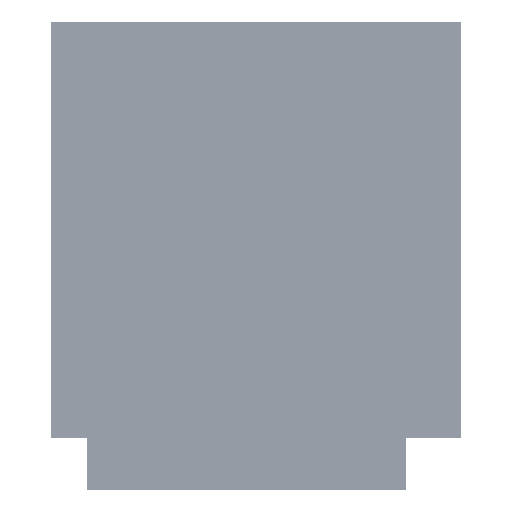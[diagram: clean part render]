
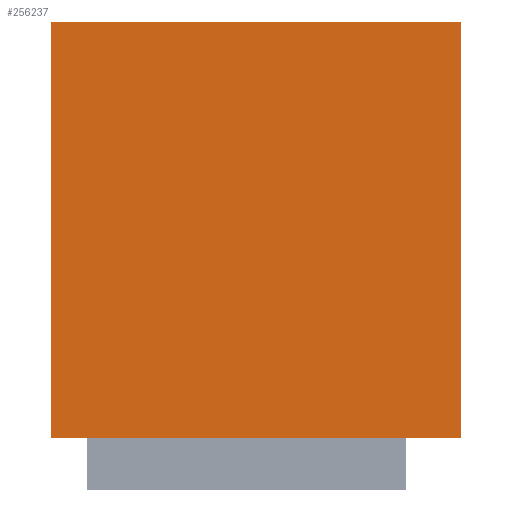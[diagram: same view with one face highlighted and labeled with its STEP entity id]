
A CAD part, front view. The second image highlights one B-rep face of the part: STEP entity #256237.
In plain terms, the highlighted planar face has unit normal (0, -1, 0).
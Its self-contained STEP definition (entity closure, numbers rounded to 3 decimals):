
#8048 = LINE ( 'NONE', #250929, #80453 ) ;
#15464 = ORIENTED_EDGE ( 'NONE', *, *, #131009, .T. ) ;
#17858 = CARTESIAN_POINT ( 'NONE',  ( 0., -43.04, 0. ) ) ;
#18842 = VERTEX_POINT ( 'NONE', #203415 ) ;
#62784 = CARTESIAN_POINT ( 'NONE',  ( -200.025, -43.04, 0. ) ) ;
#63605 = CARTESIAN_POINT ( 'NONE',  ( 0., -43.04, 0. ) ) ;
#67324 = CARTESIAN_POINT ( 'NONE',  ( 0., -43.04, 0. ) ) ;
#67401 = EDGE_CURVE ( 'NONE', #162328, #18842, #8048, .T. ) ;
#72701 = VERTEX_POINT ( 'NONE', #157659 ) ;
#80453 = VECTOR ( 'NONE', #200835, 1000. ) ;
#86128 = DIRECTION ( 'NONE',  ( -1., 0., 0. ) ) ;
#112965 = LINE ( 'NONE', #62784, #168851 ) ;
#119173 = VERTEX_POINT ( 'NONE', #144408 ) ;
#131009 = EDGE_CURVE ( 'NONE', #119173, #72701, #112965, .T. ) ;
#144408 = CARTESIAN_POINT ( 'NONE',  ( -200.025, -43.04, 203.2 ) ) ;
#157659 = CARTESIAN_POINT ( 'NONE',  ( -200.025, -43.04, 0. ) ) ;
#162328 = VERTEX_POINT ( 'NONE', #67324 ) ;
#162410 = DIRECTION ( 'NONE',  ( 1., 0., 0. ) ) ;
#168851 = VECTOR ( 'NONE', #257158, 1000. ) ;
#178524 = EDGE_LOOP ( 'NONE', ( #226207, #190630, #15464, #214930 ) ) ;
#190630 = ORIENTED_EDGE ( 'NONE', *, *, #259580, .T. ) ;
#200835 = DIRECTION ( 'NONE',  ( 0., 0., 1. ) ) ;
#203415 = CARTESIAN_POINT ( 'NONE',  ( 0., -43.04, 203.2 ) ) ;
#214930 = ORIENTED_EDGE ( 'NONE', *, *, #215583, .T. ) ;
#215583 = EDGE_CURVE ( 'NONE', #72701, #162328, #232568, .T. ) ;
#216760 = VECTOR ( 'NONE', #234094, 1000. ) ;
#226207 = ORIENTED_EDGE ( 'NONE', *, *, #67401, .T. ) ;
#228794 = CARTESIAN_POINT ( 'NONE',  ( 0., -43.04, 203.2 ) ) ;
#232568 = LINE ( 'NONE', #17858, #216760 ) ;
#234094 = DIRECTION ( 'NONE',  ( 1., 0., 0. ) ) ;
#250929 = CARTESIAN_POINT ( 'NONE',  ( 0., -43.04, 0. ) ) ;
#251832 = DIRECTION ( 'NONE',  ( 0., -1., 0. ) ) ;
#256237 = ADVANCED_FACE ( 'NONE', ( #275306 ), #301911, .T. ) ;
#257158 = DIRECTION ( 'NONE',  ( 0., 0., -1. ) ) ;
#259580 = EDGE_CURVE ( 'NONE', #18842, #119173, #302406, .T. ) ;
#275306 = FACE_OUTER_BOUND ( 'NONE', #178524, .T. ) ;
#289831 = AXIS2_PLACEMENT_3D ( 'NONE', #63605, #251832, #162410 ) ;
#300745 = VECTOR ( 'NONE', #86128, 1000. ) ;
#301911 = PLANE ( 'NONE',  #289831 ) ;
#302406 = LINE ( 'NONE', #228794, #300745 ) ;
